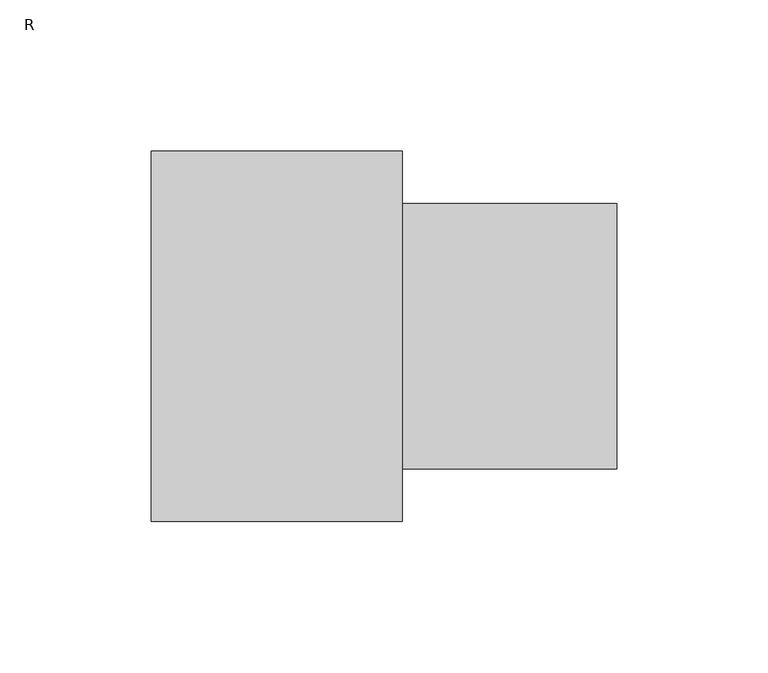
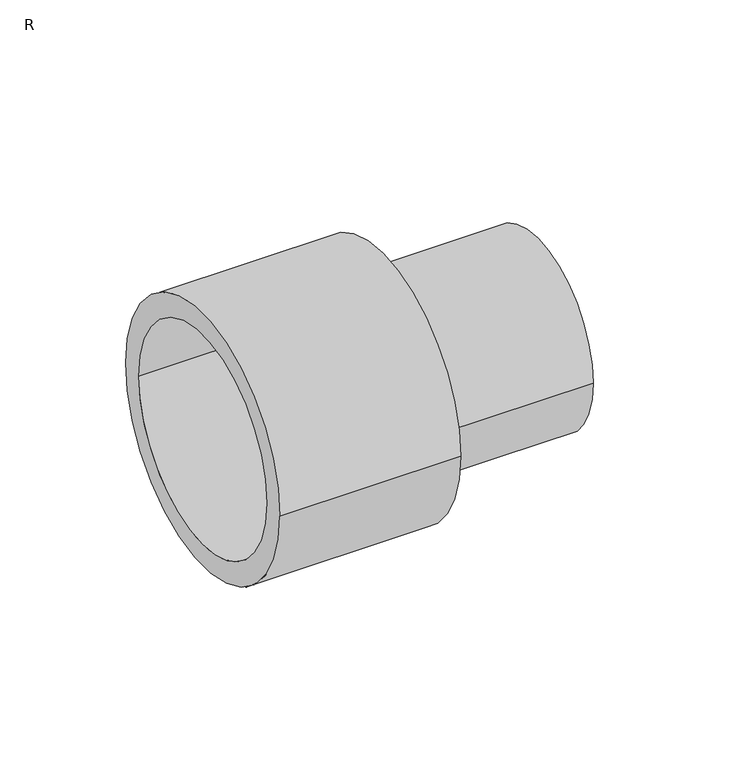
"""IFC4 building model written with IfcOpenShell, lengths in millimetres: pipe fitting geometry, FUSAPEX reducer : R."""

from ifc_helpers import new_model, si_unit, frame, origin, place, context, project, spatial, polyline, circle_curve, source, transform, mapped, element, save
from ifc_brep_helpers import plane_surface, cylinder_surface, revolved_surface, advanced_brep


def r_697b0825(model_context):
    return source(origin(), model_context, "Body", "AdvancedBrep", [
        advanced_brep(
        [(-83.0, 50.85, 0.0), (-83.0, -50.85, 0.0), (-13.8, -50.85, 0.0), (-13.8, 50.85, 0.0), (0.0, 61.3, 0.0), (0.0, -61.3, 0.0), (-83.0, -61.3, 0.0), (-83.0, 61.3, 0.0), (71.0, 43.85, 0.0), (71.0, -43.85, 0.0), (0.0, -43.85, 0.0), (0.0, 43.85, 0.0), (-13.8, 36.5, 0.0), (-13.8, -36.5, 0.0), (71.0, -36.5, 0.0), (71.0, 36.5, 0.0)],
        [
            (0, 1, circle_curve(frame((-83.0, 0.0, 0.0), z_axis=(-1.0, 0.0, 0.0), x_axis=(0.0, -1.0, 0.0)), 50.85)),
            (1, 2),
            (2, 3, circle_curve(frame((-13.8, 0.0, 0.0), z_axis=(1.0, 0.0, 0.0), x_axis=(0.0, -1.0, 0.0)), 50.85)),
            (3, 0),
            (4, 5, circle_curve(frame((0.0, 0.0, 0.0), z_axis=(-1.0, 0.0, 0.0), x_axis=(0.0, -1.0, 0.0)), 61.3)),
            (5, 6),
            (6, 7, circle_curve(frame((-83.0, 0.0, 0.0), z_axis=(1.0, 0.0, 0.0), x_axis=(0.0, -1.0, 0.0)), 61.3)),
            (7, 4),
            (8, 9, circle_curve(frame((71.0, 0.0, 0.0), z_axis=(-1.0, 0.0, 0.0), x_axis=(0.0, -1.0, 0.0)), 43.85)),
            (9, 10),
            (10, 11, circle_curve(frame((0.0, 0.0, 0.0), z_axis=(1.0, 0.0, 0.0), x_axis=(0.0, -1.0, 0.0)), 43.85)),
            (11, 8),
            (12, 13, circle_curve(frame((-13.8, 0.0, 0.0), z_axis=(-1.0, 0.0, 0.0), x_axis=(0.0, -1.0, 0.0)), 36.5)),
            (13, 14),
            (14, 15, circle_curve(frame((71.0, 0.0, 0.0), z_axis=(1.0, 0.0, 0.0), x_axis=(0.0, -1.0, 0.0)), 36.5)),
            (15, 12),
            (1, 0, circle_curve(frame((-83.0, 0.0, 0.0), z_axis=(-1.0, 0.0, 0.0), x_axis=(0.0, 1.0, 0.0)), 50.85)),
            (3, 2, circle_curve(frame((-13.8, 0.0, 0.0), z_axis=(1.0, 0.0, 0.0), x_axis=(0.0, 1.0, 0.0)), 50.85)),
            (6, 7, circle_curve(frame((-83.0, 0.0, 0.0), z_axis=(-1.0, 0.0, 0.0), x_axis=(0.0, 1.0, 0.0)), 61.3)),
            (5, 4, circle_curve(frame((0.0, 0.0, 0.0), z_axis=(-1.0, 0.0, 0.0), x_axis=(0.0, 1.0, 0.0)), 61.3)),
            (10, 11, circle_curve(frame((0.0, 0.0, 0.0), z_axis=(-1.0, 0.0, 0.0), x_axis=(0.0, 1.0, 0.0)), 43.85)),
            (9, 8, circle_curve(frame((71.0, 0.0, 0.0), z_axis=(-1.0, 0.0, 0.0), x_axis=(0.0, 1.0, 0.0)), 43.85)),
            (14, 15, circle_curve(frame((71.0, 0.0, 0.0), z_axis=(-1.0, 0.0, 0.0), x_axis=(0.0, 1.0, 0.0)), 36.5)),
            (13, 12, circle_curve(frame((-13.8, 0.0, 0.0), z_axis=(-1.0, 0.0, 0.0), x_axis=(0.0, 1.0, 0.0)), 36.5)),
        ],
        [
            revolved_surface(polyline([(-13.8, -50.85, 0.0), (-83.0, -50.85, 0.0)]), (0.0, 0.0, 0.0), (1.0, 0.0, 0.0)),
            cylinder_surface(frame((0.0, 0.0, 0.0), z_axis=(1.0, 0.0, 0.0), x_axis=(0.0, -1.0, 0.0)), 61.3),
            cylinder_surface(frame((0.0, 0.0, 0.0), z_axis=(1.0, 0.0, 0.0), x_axis=(0.0, -1.0, 0.0)), 43.85),
            revolved_surface(polyline([(71.0, -36.5, 0.0), (-13.8, -36.5, 0.0)]), (0.0, 0.0, 0.0), (1.0, 0.0, 0.0)),
            revolved_surface(polyline([(-13.8, 50.85, 0.0), (-83.0, 50.85, 0.0)]), (0.0, 0.0, 0.0), (1.0, 0.0, 0.0)),
            plane_surface(frame((-83.0, 0.0, 0.0), z_axis=(-1.0, 0.0, 0.0), x_axis=(0.0, 1.0, 0.0))),
            cylinder_surface(frame((0.0, 0.0, 0.0), z_axis=(1.0, 0.0, 0.0), x_axis=(0.0, 1.0, 0.0)), 61.3),
            plane_surface(frame((0.0, 0.0, 0.0), z_axis=(1.0, 0.0, 0.0), x_axis=(0.0, 1.0, 0.0))),
            cylinder_surface(frame((0.0, 0.0, 0.0), z_axis=(1.0, 0.0, 0.0), x_axis=(0.0, 1.0, 0.0)), 43.85),
            plane_surface(frame((71.0, 0.0, 0.0), z_axis=(1.0, 0.0, 0.0), x_axis=(0.0, 1.0, 0.0))),
            revolved_surface(polyline([(71.0, 36.5, 0.0), (-13.8, 36.5, 0.0)]), (0.0, 0.0, 0.0), (1.0, 0.0, 0.0)),
            plane_surface(frame((-13.8, 0.0, 0.0), z_axis=(-1.0, 0.0, 0.0), x_axis=(0.0, 1.0, 0.0))),
        ],
        [
            (0, [[1, 2, 3, 4]]),
            (1, [[5, 6, 7, 8]]),
            (2, [[9, 10, 11, 12]]),
            (3, [[13, 14, 15, 16]]),
            (4, [[17, -4, 18, -2]]),
            (5, [[19, -7], [-17, -1]]),
            (6, [[20, -8, -19, -6]]),
            (7, [[-20, -5], [21, -11]]),
            (8, [[22, -12, -21, -10]]),
            (9, [[-22, -9], [23, -15]]),
            (10, [[24, -16, -23, -14]]),
            (11, [[-18, -3], [-24, -13]]),
        ],
    ),
    ])


if __name__ == "__main__":
    model = new_model("IFC4")
    model_context = context("Model", 3, world=origin())
    ifc_project = project(units=[si_unit("LENGTHUNIT", "METRE", prefix="MILLI")], contexts=[model_context])
    site = spatial("IfcSite", under=ifc_project)
    building = spatial("IfcBuilding", under=site)
    placement = place(None, origin())
    r_shape = r_697b0825(model_context)
    element("IfcPipeFitting", 1, ObjectType="FUSAPEX reducer : R", at=placement, inside=building, context=model_context, shape_type="MappedRepresentation", body=[
        mapped(r_shape, transform((0.0, 0.0, 0.0), x_axis=(1.0, 0.0, 0.0), y_axis=(0.0, 1.0, 0.0), z_axis=(0.0, 0.0, 1.0))),
    ])
    save(model, "model.ifc")
